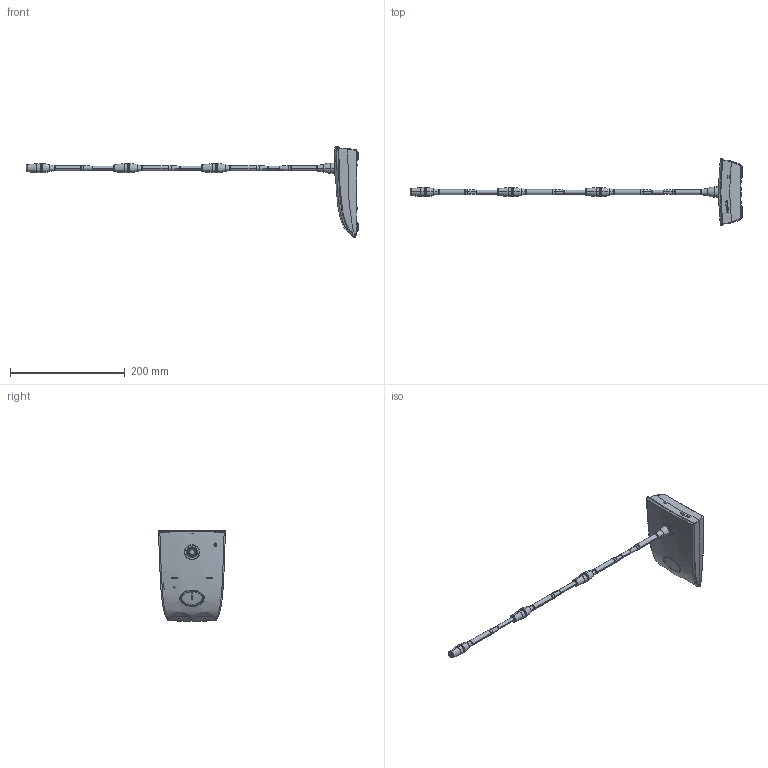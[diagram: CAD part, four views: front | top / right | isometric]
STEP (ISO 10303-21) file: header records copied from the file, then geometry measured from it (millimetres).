
FILE_DESCRIPTION((''),'2;1');
FILE_NAME('PODIUM_ASM','2024-06-06T03:20:35',('DELL'),(''),'CREO PARAMETRIC BY PTC INC, 2022073','CREO PARAMETRIC BY PTC INC, 2022073','');
FILE_SCHEMA(('CONFIG_CONTROL_DESIGN'));
Products named in the file (43): DS8P-BOTTOM_REV2_X_PROTO; DS8P-TOP_REV2_X; DS8P-BUTTON_REV3_X; MCH-0340-001_REV4_X; RUBBER_FEET-BS-01R; CONNECTOR-1; CONNECTOR-2; WASHER_PODIUM; NUT_PODIUM; PODIUM_CONNECTOR_ASM; BREP_41; BREP_68; BREP_59; GOOSENECK; BREP_58; BREP_63; BREP_55; BREP_57; BREP_56; BREP_41_1; BREP_68_1; BREP_59_1; GOOSENECK_1; BREP_58_1; BREP_63_1; BREP_55_1; BREP_57_1; BREP_56_1; GOOSENECK_MIC_ASM_1_ASM; GOOSENECK_6IN-MIC_ASM_ASM; BREP_41_1_1; BREP_68_1_1; BREP_59_1_1; GOOSENECK_1_1; BREP_58_1_1; BREP_63_1_1; BREP_55_1_1; BREP_57_1_1; BREP_56_1_1; GOOSENECK_MIC_ASM_1_1_ASM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
Assembly tree (45 placements, depth 5):
  PODIUM_ASM
    DS8P-BOTTOM_REV2_X_PROTO
    DS8P-TOP_REV2_X
    DS8P-BUTTON_REV3_X
    MCH-0340-001_REV4_X
    RUBBER_FEET-BS-01R  x4
    PODIUM_CONNECTOR_ASM
      CONNECTOR-1
      CONNECTOR-2
      WASHER_PODIUM
      NUT_PODIUM
    GOOSENECK_MIC_ASM
      BREP_41
      BREP_68
      BREP_59
      GOOSENECK
      BREP_58
      BREP_63
      BREP_55
      BREP_57
      BREP_56
      GOOSENECK_6IN-MIC_ASM_ASM
        GOOSENECK_MIC_ASM_1_ASM
          BREP_41_1
          BREP_68_1
          BREP_59_1
          GOOSENECK_1
          BREP_58_1
          BREP_63_1
          BREP_55_1
          BREP_57_1
          BREP_56_1
      GOOSENECK_18IN-MIC_ASM_ASM
        GOOSENECK_MIC_ASM_1_1_ASM
          BREP_41_1_1
          BREP_68_1_1
          BREP_59_1_1
          GOOSENECK_1_1
          BREP_58_1_1
          BREP_63_1_1
          BREP_55_1_1
          BREP_57_1_1
          BREP_56_1_1
Bounding box: 578.53 x 116.41 x 158.56 mm (x, y, z)
Volume: 227611.1 mm3; surface area: 161321.8 mm2
Topology: 39 solids, 41 shells, 3020 faces, 7251 edges, 4093 vertices
Faces by surface type: cylinder 1132, plane 637, bspline 580, sphere 314, torus 212, cone 128, extrusion 17
Entity records: 130352 total; most frequent: CARTESIAN_POINT 67363, ORIENTED_EDGE 13524, DIRECTION 12337, EDGE_CURVE 6762, AXIS2_PLACEMENT_3D 4975, VERTEX_POINT 3961, EDGE_LOOP 3049, FACE_OUTER_BOUND 2942
